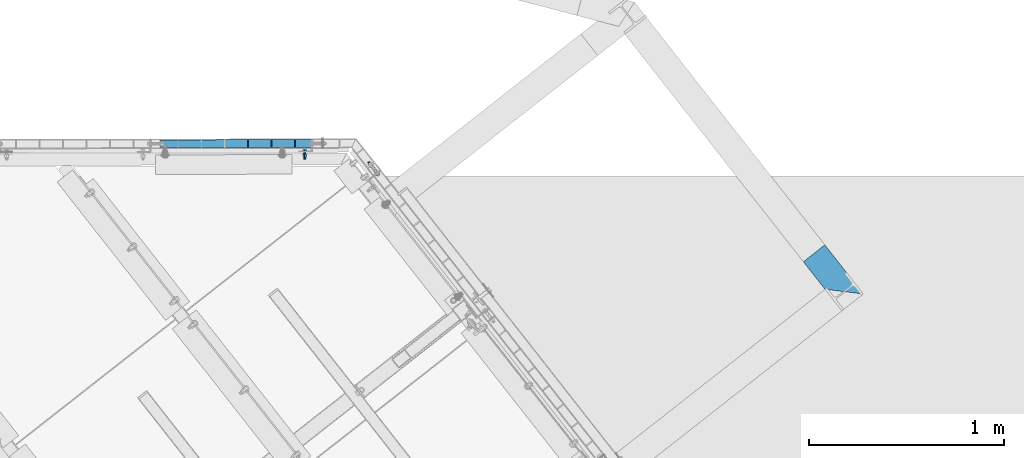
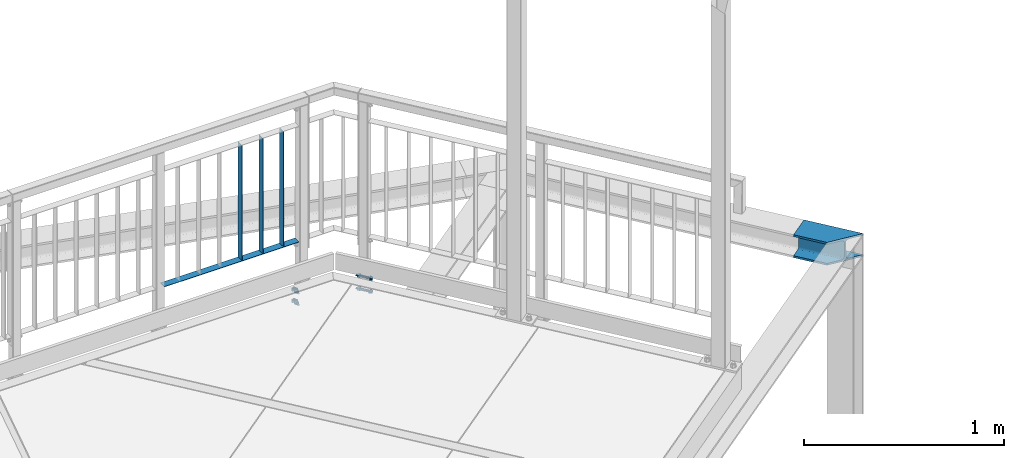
# One storey, part 132 of 169: 5 discrete accessories, 2 mechanical fasteners, 4 elements without a shape of their own.
"""IFC2X3 building model written with IfcOpenShell, lengths in millimetres."""

from ifc_helpers import new_model, si_unit, frame, frame_2d, origin_with_axes, origin_2d_with_axis, place, context, subcontext, project, spatial, polyline, circle_curve, parameter, trimmed, segment, composite_curve, rectangle, circle, i_section, outline, extrude, boolean, clip, halfspace, source, transform, mapped, material, type_object, element, aggregate, save


model = new_model("IFC2X3")

# Units and contexts
model_context = context("Model", 3, precision=1e-05, world=origin_with_axes())
body_context = subcontext(model_context, "Body", "Model", "MODEL_VIEW")
ifc_project = project(units=[si_unit("LENGTHUNIT", "METRE", prefix="MILLI"), si_unit("AREAUNIT", "SQUARE_METRE"), si_unit("VOLUMEUNIT", "CUBIC_METRE"), si_unit("MASSUNIT", "GRAM", prefix="KILO"), si_unit("TIMEUNIT", "SECOND"), si_unit("PLANEANGLEUNIT", "RADIAN"), si_unit("SOLIDANGLEUNIT", "STERADIAN"), si_unit("THERMODYNAMICTEMPERATUREUNIT", "DEGREE_CELSIUS"), si_unit("LUMINOUSINTENSITYUNIT", "LUMEN")], contexts=[model_context])

# Site, building, storey
site_placement = place(None, origin_with_axes())
site = spatial("IfcSite", under=ifc_project, at=site_placement, Name="Undefined", CompositionType="ELEMENT")
building_placement = place(site_placement, origin_with_axes())
building = spatial("IfcBuilding", under=site, at=building_placement, Name="Undefined", CompositionType="ELEMENT")
storey_placement = place(building_placement, origin_with_axes())
storey = spatial("IfcBuildingStorey", under=building, at=storey_placement, Name="Undefined", CompositionType="ELEMENT", Elevation=0.0)

# Assembly, discrete accessory
assembly_1_placement = place(storey_placement, origin_with_axes())
assembly_1 = element("IfcElementAssembly", 1, at=assembly_1_placement, inside=storey, Name="Steel Assembly", AssemblyPlace="NOTDEFINED", PredefinedType="RIGID_FRAME")
ifc_material_1 = material(Name="STEEL/S355")
discrete_accessory_type_1 = type_object("IfcDiscreteAccessoryType", Name="BEAM")
discrete_accessory_1_placement = place(assembly_1_placement, frame((23540.2597390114, 1726.37774149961, 13470.4179097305), z_axis=(-2.54700353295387e-10, 0.0, -1.0), x_axis=(0.617242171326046, -0.786773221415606, 1.36000016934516e-07)))
discrete_accessory_1 = element("IfcDiscreteAccessory", 2, at=discrete_accessory_1_placement, type_object=discrete_accessory_type_1, material=ifc_material_1, Name="BEAM", ObjectType="HEB140", context=body_context, shape_type="Clipping", body=[
    clip(extrude(i_section(OverallWidth=140.0, OverallDepth=140.0, WebThickness=7.0, FlangeThickness=12.0, FilletRadius=12.0, at=origin_2d_with_axis()), frame((389.368065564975, -4.82026676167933e-16, 0.0), z_axis=(-1.0, -3.46944695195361e-18, -1.38777878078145e-17), x_axis=(1.73472347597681e-18, -1.0, 0.0)), (0.0, 0.0, 1.0), 389.37), halfspace(frame((320.000000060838, -70.0000000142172, 4.47726051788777e-08), z_axis=(-0.707106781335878, -0.707106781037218, 2.34571939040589e-10), x_axis=(-2.54700353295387e-10, 0.0, -1.0)), True)),
])
aggregate(assembly_1, [discrete_accessory_1])

# Assembly, discrete accessories
assembly_2_placement = place(storey_placement, origin_with_axes())
assembly_2 = element("IfcElementAssembly", 3, at=assembly_2_placement, inside=storey, Name="Steel Assembly", AssemblyPlace="NOTDEFINED", PredefinedType="RIGID_FRAME")
ifc_material_2 = material(Name="STEEL/S235")
discrete_accessory_type_2 = type_object("IfcDiscreteAccessoryType", Name="PORĘCZ")
discrete_accessory_2_placement = place(assembly_2_placement, frame((20643.5264933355, 2287.69369139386, 14870.4173250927), z_axis=(-0.999998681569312, -0.00162384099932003, -2.17981851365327e-07), x_axis=(-2.54700353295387e-10, 0.0, -1.0)))
discrete_accessory_2 = element("IfcDiscreteAccessory", 4, at=discrete_accessory_2_placement, type_object=discrete_accessory_type_2, material=ifc_material_2, Name="PORĘCZ", ObjectType="BL40*3", context=body_context, shape_type="Clipping", body=[
    clip(clip(clip(extrude(outline(polyline([(848.499998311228, 19.9999999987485), (848.500000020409, -20.000000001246), (146.500383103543, -20.0000000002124), (146.500381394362, 19.9999999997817), (848.499998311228, 19.9999999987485)])), frame((1.81898940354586e-12, -1.77635442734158e-15, -1.50000000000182), z_axis=(0.0, 0.0, 1.0), x_axis=(1.0, 0.0, 0.0)), (0.0, 0.0, 1.0), 3.0), halfspace(frame((146.500339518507, 1000.00000006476, -1.23327481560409e-09), z_axis=(1.0, 0.0, 0.0), x_axis=(-2.54700353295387e-10, 0.0, -1.0)), True)), halfspace(frame((25.3344726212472, 999.999999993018, -4.64569893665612e-09), z_axis=(1.0, 0.0, 0.0), x_axis=(-2.54700353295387e-10, 0.0, -1.0)), True)), halfspace(frame((848.499956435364, 999.999999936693, 2.33558239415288e-09), z_axis=(-1.0, -3.46944695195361e-18, -1.38777878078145e-17), x_axis=(0.0, 0.0, 1.0)), True)),
])
discrete_accessory_3_placement = place(assembly_2_placement, frame((20763.5263351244, 2287.88855231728, 14870.4173450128), z_axis=(-0.999998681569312, -0.00162384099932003, -2.17981851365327e-07), x_axis=(-2.54700353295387e-10, 0.0, -1.0)))
discrete_accessory_3 = element("IfcDiscreteAccessory", 5, at=discrete_accessory_3_placement, type_object=discrete_accessory_type_2, material=ifc_material_2, Name="PORĘCZ", ObjectType="BL40*3", context=body_context, shape_type="Clipping", body=[
    clip(clip(clip(extrude(outline(polyline([(848.499998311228, 19.9999999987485), (848.500000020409, -20.000000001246), (146.500383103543, -20.0000000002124), (146.500381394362, 19.9999999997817), (848.499998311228, 19.9999999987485)])), frame((1.81898940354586e-12, -1.77635442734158e-15, -1.50000000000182), z_axis=(0.0, 0.0, 1.0), x_axis=(1.0, 0.0, 0.0)), (0.0, 0.0, 1.0), 3.0), halfspace(frame((146.500339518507, 1000.00000006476, -1.23327481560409e-09), z_axis=(1.0, 0.0, 0.0), x_axis=(-2.54700353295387e-10, 0.0, -1.0)), True)), halfspace(frame((25.3344726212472, 999.999999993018, -4.64569893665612e-09), z_axis=(1.0, 0.0, 0.0), x_axis=(-2.54700353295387e-10, 0.0, -1.0)), True)), halfspace(frame((848.499956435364, 999.999999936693, 2.33558239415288e-09), z_axis=(-1.0, -3.46944695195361e-18, -1.38777878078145e-17), x_axis=(0.0, 0.0, 1.0)), True)),
])
discrete_accessory_4_placement = place(assembly_2_placement, frame((20883.5261769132, 2288.0834132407, 14870.417364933), z_axis=(-0.999998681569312, -0.00162384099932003, -2.17981851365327e-07), x_axis=(-2.54700353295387e-10, 0.0, -1.0)))
discrete_accessory_4 = element("IfcDiscreteAccessory", 6, at=discrete_accessory_4_placement, type_object=discrete_accessory_type_2, material=ifc_material_2, Name="PORĘCZ", ObjectType="BL40*3", context=body_context, shape_type="Clipping", body=[
    clip(clip(clip(extrude(outline(polyline([(848.499998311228, 19.9999999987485), (848.500000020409, -20.000000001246), (146.500383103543, -20.0000000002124), (146.500381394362, 19.9999999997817), (848.499998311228, 19.9999999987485)])), frame((1.81898940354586e-12, -1.77635442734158e-15, -1.50000000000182), z_axis=(0.0, 0.0, 1.0), x_axis=(1.0, 0.0, 0.0)), (0.0, 0.0, 1.0), 3.0), halfspace(frame((146.500339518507, 1000.00000006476, -1.23327481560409e-09), z_axis=(1.0, 0.0, 0.0), x_axis=(-2.54700353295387e-10, 0.0, -1.0)), True)), halfspace(frame((25.3344726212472, 999.999999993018, -4.64569893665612e-09), z_axis=(1.0, 0.0, 0.0), x_axis=(-2.54700353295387e-10, 0.0, -1.0)), True)), halfspace(frame((848.499956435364, 999.999999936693, 2.33558239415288e-09), z_axis=(-1.0, -3.46944695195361e-18, -1.38777878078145e-17), x_axis=(0.0, 0.0, 1.0)), True)),
])
discrete_accessory_5_placement = place(assembly_2_placement, frame((20169.6001092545, 2286.92411088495, 14020.4172464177), z_axis=(-2.54700353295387e-10, 0.0, -1.0), x_axis=(0.999998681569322, 0.00162384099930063, 1.65999999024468e-07)))
discrete_accessory_5 = element("IfcDiscreteAccessory", 7, at=discrete_accessory_5_placement, type_object=discrete_accessory_type_2, material=ifc_material_2, Name="PORĘCZ", ObjectType="BL40*3", context=body_context, shape_type="CSG", body=[
    boolean("DIFFERENCE", boolean("DIFFERENCE", boolean("DIFFERENCE", boolean("DIFFERENCE", extrude(outline(polyline([(25.4999999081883, 20.0000000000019), (802.354302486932, 19.9999999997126), (802.354302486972, -20.0000000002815), (25.499999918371, -19.9999999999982), (25.4999999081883, 20.0000000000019)])), frame((1.81898940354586e-12, -1.77635442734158e-15, -1.50000000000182), z_axis=(0.0, 0.0, 1.0), x_axis=(1.0, 0.0, 0.0)), (0.0, 0.0, 1.0), 3.0), extrude(rectangle(XDim=51.0, YDim=51.0, at=origin_2d_with_axis()), frame((-5.94487782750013e-08, -4.65977194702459e-09, -139.999999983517), z_axis=(0.0, 0.0, 1.0), x_axis=(1.0, 0.0, 0.0)), (0.0, 0.0, 1.0), 280.0)), extrude(rectangle(XDim=51.0, YDim=51.0, at=origin_2d_with_axis()), frame((827.854302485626, 5.24229277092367e-08, -140.000000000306), z_axis=(0.0, 0.0, 1.0), x_axis=(1.0, 0.0, 0.0)), (0.0, 0.0, 1.0), 280.0)), halfspace(frame((24.9999999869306, 1000.00000000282, -1.78988557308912e-09), z_axis=(1.0, 0.0, 0.0), x_axis=(-2.54700353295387e-10, 0.0, -1.0)), True)), halfspace(frame((802.854293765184, 1000.0000000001, -2.27459167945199e-07), z_axis=(-1.0, -3.46944695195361e-18, -1.38777878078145e-17), x_axis=(0.0, 0.0, 1.0)), True)),
])
aggregate(assembly_2, [discrete_accessory_2, discrete_accessory_3, discrete_accessory_4, discrete_accessory_5])

# Assembly, mechanical fastener
assembly_3_placement = place(storey_placement, origin_with_axes())
assembly_3 = element("IfcElementAssembly", 8, at=assembly_3_placement, inside=storey, Name="Steel Assembly", AssemblyPlace="NOTDEFINED", PredefinedType="RIGID_FRAME")
ifc_material_3 = material(Name="Undefined")
discrete_accessory_type_3 = type_object("IfcDiscreteAccessoryType", Name="Bolt assembly")
shared_shape_1 = source(origin_with_axes(), body_context, "Body", "SweptSolid", [
    extrude(circle(Radius=7.5, at=origin_2d_with_axis()), frame((0.0, 9.72521740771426, 0.0), z_axis=(0.0, 1.0, 0.0), x_axis=(1.0, 0.0, 0.0)), (0.0, 0.0, 1.0), 7.1),
    extrude(outline(composite_curve([segment(polyline([(7.5, 10.0), (7.5, -10.0)]), True, "CONTINUOUS"), segment(trimmed(circle_curve(frame_2d((0.0, -10.0), x_axis=(1.0, 0.0)), 7.5), [parameter(0.0)], [parameter(3.14159265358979)], False, "PARAMETER"), True, "CONTINUOUS"), segment(polyline([(-7.5, -10.0), (-7.5, 10.0)]), True, "CONTINUOUS"), segment(trimmed(circle_curve(frame_2d((0.0, 10.0), x_axis=(-1.0, 0.0)), 7.5), [parameter(0.0)], [parameter(3.14159265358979)], False, "PARAMETER"), True, "DISCONTINUOUS")], self_intersect=False)), frame((0.0, 0.103000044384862, 0.0), z_axis=(0.0, 1.0, 0.0), x_axis=(1.0, 0.0, 0.0)), (0.0, 0.0, 1.0), 5.0),
    extrude(outline(polyline([(10.39230484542, 0.0), (5.19615242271, 9.00000000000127), (-5.19615242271, 9.00000000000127), (-10.39230484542, 0.0), (-5.19615242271, -9.00000000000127), (5.19615242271, -9.00000000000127), (10.39230484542, 0.0)])), frame((0.0, -10.4969999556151, 0.0), z_axis=(0.0, 1.0, 0.0), x_axis=(1.0, 0.0, 0.0)), (0.0, 0.0, 1.0), 7.5),
    extrude(circle(Radius=6.0, at=origin_2d_with_axis()), frame((0.0, -2.99699995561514, 0.0), z_axis=(0.0, 1.0, 0.0), x_axis=(1.0, 0.0, 0.0)), (0.0, 0.0, 1.0), 45.0),
    extrude(circle(Radius=12.0, at=origin_2d_with_axis()), frame((0.0, -2.99699995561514, 0.0), z_axis=(0.0, 1.0, 0.0), x_axis=(1.0, 0.0, 0.0)), (0.0, 0.0, 1.0), 3.0),
    extrude(circle(Radius=12.0, at=origin_2d_with_axis()), frame((0.0, 16.8252174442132, 0.0), z_axis=(0.0, 1.0, 0.0), x_axis=(1.0, 0.0, 0.0)), (0.0, 0.0, 1.0), 3.0),
    extrude(outline(polyline([(10.96965511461, 0.0), (5.484827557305, 9.50000000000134), (-5.484827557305, 9.50000000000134), (-10.96965511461, 0.0), (-5.484827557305, -9.50000000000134), (5.484827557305, -9.50000000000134), (10.96965511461, 0.0)])), frame((0.0, 19.8252174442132, 0.0), z_axis=(0.0, 1.0, 0.0), x_axis=(1.0, 0.0, 0.0)), (0.0, 0.0, 1.0), 10.0),
])
mechanical_fastener_1_placement = place(assembly_3_placement, frame((20932.5184010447, 2248.16589013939, 13689.9825322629), z_axis=(0.999998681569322, 0.00162384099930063, 1.65999999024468e-07), x_axis=(0.0, 0.0, 1.0)))
mechanical_fastener_1 = element("IfcMechanicalFastener", 9, at=mechanical_fastener_1_placement, type_object=discrete_accessory_type_3, material=ifc_material_3, Name="Bolt assembly", NominalDiameter=12.0, NominalLength=45.0, context=body_context, shape_type="MappedRepresentation", body=[
    mapped(shared_shape_1, transform((0.0, 0.0, 0.0))),
    mapped(shared_shape_1, transform((70.0000000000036, -8.45830072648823e-11, -2.18278728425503e-11))),
])
aggregate(assembly_3, [mechanical_fastener_1])

assembly_4_placement = place(storey_placement, origin_with_axes())
assembly_4 = element("IfcElementAssembly", 10, at=assembly_4_placement, inside=storey, Name="Steel Assembly", AssemblyPlace="NOTDEFINED", PredefinedType="RIGID_FRAME")
shared_shape_2 = source(origin_with_axes(), body_context, "Body", "SweptSolid", [
    extrude(circle(Radius=7.5, at=origin_2d_with_axis()), frame((0.0, 4.89999999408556, 0.0), z_axis=(0.0, 1.0, 0.0), x_axis=(1.0, 0.0, 0.0)), (0.0, 0.0, 1.0), 50.1),
    extrude(outline(composite_curve([segment(polyline([(7.5, 7.5), (7.5, -7.5)]), True, "CONTINUOUS"), segment(trimmed(circle_curve(frame_2d((0.0, -7.5), x_axis=(1.0, 0.0)), 7.5), [parameter(0.0)], [parameter(3.14159265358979)], False, "PARAMETER"), True, "CONTINUOUS"), segment(polyline([(-7.5, -7.5), (-7.5, 7.5)]), True, "CONTINUOUS"), segment(trimmed(circle_curve(frame_2d((0.0, 7.5), x_axis=(-1.0, 0.0)), 7.5), [parameter(0.0)], [parameter(3.14159265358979)], False, "PARAMETER"), True, "DISCONTINUOUS")], self_intersect=False)), frame((0.0, 0.100000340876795, 0.0), z_axis=(0.0, 1.0, 0.0), x_axis=(1.0, 0.0, 0.0)), (0.0, 0.0, 1.0), 5.0),
    extrude(outline(polyline([(10.39230484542, 0.0), (5.19615242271, 9.00000000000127), (-5.19615242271, 9.00000000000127), (-10.39230484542, 0.0), (-5.19615242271, -9.00000000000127), (5.19615242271, -9.00000000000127), (10.39230484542, 0.0)])), frame((0.0, -10.4999989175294, 0.0), z_axis=(0.0, 1.0, 0.0), x_axis=(1.0, 0.0, 0.0)), (0.0, 0.0, 1.0), 7.5),
    extrude(circle(Radius=6.0, at=origin_2d_with_axis()), frame((0.0, -3.00000607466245, 0.0), z_axis=(0.0, 1.0, 0.0), x_axis=(1.0, 0.0, 0.0)), (0.0, 0.0, 1.0), 80.0),
    extrude(circle(Radius=12.0, at=origin_2d_with_axis()), frame((0.0, -3.00000607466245, 0.0), z_axis=(0.0, 1.0, 0.0), x_axis=(1.0, 0.0, 0.0)), (0.0, 0.0, 1.0), 3.0),
    extrude(circle(Radius=12.0, at=origin_2d_with_axis()), frame((0.0, 54.9999999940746, 0.0), z_axis=(0.0, 1.0, 0.0), x_axis=(1.0, 0.0, 0.0)), (0.0, 0.0, 1.0), 3.0),
    extrude(outline(polyline([(10.96965511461, 0.0), (5.484827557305, 9.50000000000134), (-5.484827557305, 9.50000000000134), (-10.96965511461, 0.0), (-5.484827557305, -9.50000000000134), (5.484827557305, -9.50000000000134), (10.96965511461, 0.0)])), frame((0.0, 57.9999999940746, 0.0), z_axis=(0.0, 1.0, 0.0), x_axis=(1.0, 0.0, 0.0)), (0.0, 0.0, 1.0), 10.0),
])
mechanical_fastener_2_placement = place(assembly_4_placement, frame((21305.6878583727, 2134.12683925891, 13685.4175346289), z_axis=(-0.7867732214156, -0.61724217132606, -1.0406294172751e-07), x_axis=(0.0, 0.0, 1.0)))
mechanical_fastener_2 = element("IfcMechanicalFastener", 11, at=mechanical_fastener_2_placement, type_object=discrete_accessory_type_3, material=ifc_material_3, Name="Bolt assembly", NominalDiameter=12.0, NominalLength=80.0, context=body_context, shape_type="MappedRepresentation", body=[
    mapped(shared_shape_2, transform((0.0, 0.0, 0.0))),
    mapped(shared_shape_2, transform((79.9999999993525, -4.5446979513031e-13, -4.53637127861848e-13))),
])
aggregate(assembly_4, [mechanical_fastener_2])

save(model, "model.ifc")
